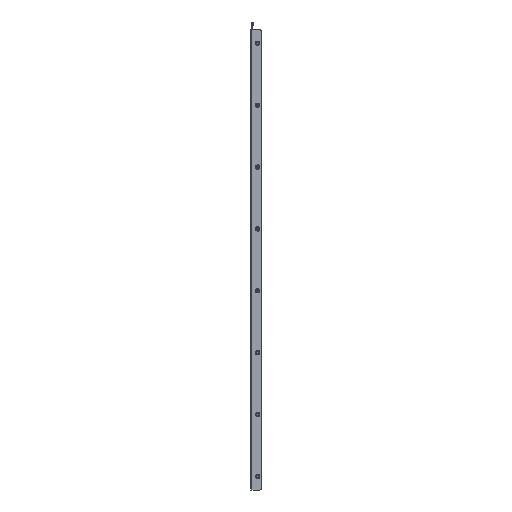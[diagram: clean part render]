
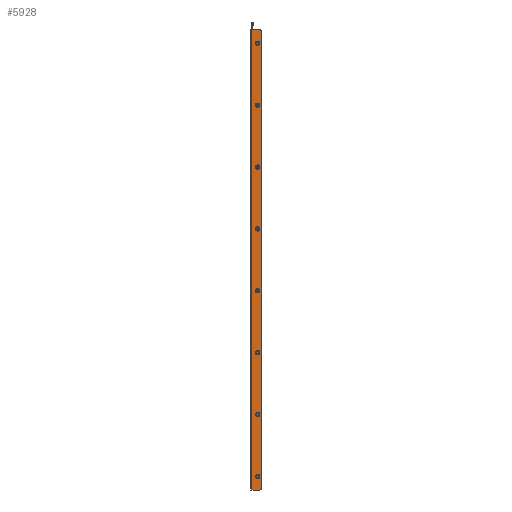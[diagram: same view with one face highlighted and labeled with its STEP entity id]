
A CAD part, left-side view. The second image highlights one B-rep face of the part: STEP entity #5928.
In plain terms, the highlighted planar face has unit normal (-1, 0, 0).
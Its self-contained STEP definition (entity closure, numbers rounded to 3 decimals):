
#1052=DIRECTION('',(0.,0.,1.));
#1053=VECTOR('',#1052,743.6);
#1054=CARTESIAN_POINT('',(-218.,86.1,-762.));
#1055=LINE('',#1054,#1053);
#1082=CARTESIAN_POINT('',(-218.,76.8,-40.02));
#1083=DIRECTION('',(1.,0.,0.));
#1084=DIRECTION('',(0.,0.,-1.));
#1085=AXIS2_PLACEMENT_3D('',#1082,#1083,#1084);
#1090=CARTESIAN_POINT('',(-218.,76.8,-40.02));
#1091=DIRECTION('',(1.,0.,0.));
#1092=DIRECTION('',(0.,0.,1.));
#1093=AXIS2_PLACEMENT_3D('',#1090,#1091,#1092);
#1098=CARTESIAN_POINT('',(-218.,76.8,-140.02));
#1099=DIRECTION('',(1.,0.,0.));
#1100=DIRECTION('',(0.,0.,-1.));
#1101=AXIS2_PLACEMENT_3D('',#1098,#1099,#1100);
#1106=CARTESIAN_POINT('',(-218.,76.8,-140.02));
#1107=DIRECTION('',(1.,0.,0.));
#1108=DIRECTION('',(0.,0.,1.));
#1109=AXIS2_PLACEMENT_3D('',#1106,#1107,#1108);
#1114=CARTESIAN_POINT('',(-218.,76.8,-240.02));
#1115=DIRECTION('',(1.,0.,0.));
#1116=DIRECTION('',(0.,0.,-1.));
#1117=AXIS2_PLACEMENT_3D('',#1114,#1115,#1116);
#1122=CARTESIAN_POINT('',(-218.,76.8,-240.02));
#1123=DIRECTION('',(1.,0.,0.));
#1124=DIRECTION('',(0.,0.,1.));
#1125=AXIS2_PLACEMENT_3D('',#1122,#1123,#1124);
#1130=CARTESIAN_POINT('',(-218.,76.8,-340.02));
#1131=DIRECTION('',(1.,0.,0.));
#1132=DIRECTION('',(0.,0.,-1.));
#1133=AXIS2_PLACEMENT_3D('',#1130,#1131,#1132);
#1138=CARTESIAN_POINT('',(-218.,76.8,-340.02));
#1139=DIRECTION('',(1.,0.,0.));
#1140=DIRECTION('',(0.,0.,1.));
#1141=AXIS2_PLACEMENT_3D('',#1138,#1139,#1140);
#1146=CARTESIAN_POINT('',(-218.,76.8,-440.02));
#1147=DIRECTION('',(1.,0.,0.));
#1148=DIRECTION('',(0.,0.,-1.));
#1149=AXIS2_PLACEMENT_3D('',#1146,#1147,#1148);
#1154=CARTESIAN_POINT('',(-218.,76.8,-440.02));
#1155=DIRECTION('',(1.,0.,0.));
#1156=DIRECTION('',(0.,0.,1.));
#1157=AXIS2_PLACEMENT_3D('',#1154,#1155,#1156);
#1162=CARTESIAN_POINT('',(-218.,76.8,-540.02));
#1163=DIRECTION('',(1.,0.,0.));
#1164=DIRECTION('',(0.,0.,-1.));
#1165=AXIS2_PLACEMENT_3D('',#1162,#1163,#1164);
#1170=CARTESIAN_POINT('',(-218.,76.8,-540.02));
#1171=DIRECTION('',(1.,0.,0.));
#1172=DIRECTION('',(0.,0.,1.));
#1173=AXIS2_PLACEMENT_3D('',#1170,#1171,#1172);
#1178=CARTESIAN_POINT('',(-218.,76.8,-640.02));
#1179=DIRECTION('',(1.,0.,0.));
#1180=DIRECTION('',(0.,0.,-1.));
#1181=AXIS2_PLACEMENT_3D('',#1178,#1179,#1180);
#1186=CARTESIAN_POINT('',(-218.,76.8,-640.02));
#1187=DIRECTION('',(1.,0.,0.));
#1188=DIRECTION('',(0.,0.,1.));
#1189=AXIS2_PLACEMENT_3D('',#1186,#1187,#1188);
#1194=CARTESIAN_POINT('',(-218.,76.8,-740.02));
#1195=DIRECTION('',(1.,0.,0.));
#1196=DIRECTION('',(0.,0.,-1.));
#1197=AXIS2_PLACEMENT_3D('',#1194,#1195,#1196);
#1202=CARTESIAN_POINT('',(-218.,76.8,-740.02));
#1203=DIRECTION('',(1.,0.,0.));
#1204=DIRECTION('',(0.,0.,1.));
#1205=AXIS2_PLACEMENT_3D('',#1202,#1203,#1204);
#1210=CARTESIAN_POINT('',(-218.,73.2,-20.4));
#1211=DIRECTION('',(1.,0.,0.));
#1212=DIRECTION('',(0.,0.,1.));
#1213=AXIS2_PLACEMENT_3D('',#1210,#1211,#1212);
#1218=DIRECTION('',(0.,0.,-1.));
#1219=VECTOR('',#1218,739.6);
#1220=CARTESIAN_POINT('',(-218.,71.2,-20.4));
#1221=LINE('',#1220,#1219);
#1225=CARTESIAN_POINT('',(-218.,73.2,-760.));
#1226=DIRECTION('',(1.,0.,0.));
#1227=DIRECTION('',(0.,-1.,0.));
#1228=AXIS2_PLACEMENT_3D('',#1225,#1226,#1227);
#1233=DIRECTION('',(0.,1.,0.));
#1234=VECTOR('',#1233,12.9);
#1235=CARTESIAN_POINT('',(-218.,73.2,-762.));
#1236=LINE('',#1235,#1234);
#1240=DIRECTION('',(0.,-1.,0.));
#1241=VECTOR('',#1240,12.9);
#1242=CARTESIAN_POINT('',(-218.,86.1,-18.4));
#1243=LINE('',#1242,#1241);
#4161=CARTESIAN_POINT('',(-218.,86.1,-762.));
#4162=CARTESIAN_POINT('',(-218.,86.1,-18.4));
#4163=VERTEX_POINT('',#4161);
#4164=VERTEX_POINT('',#4162);
#4177=CARTESIAN_POINT('',(-218.,76.8,-43.07));
#4178=CARTESIAN_POINT('',(-218.,76.8,-36.97));
#4179=VERTEX_POINT('',#4177);
#4180=VERTEX_POINT('',#4178);
#4185=CARTESIAN_POINT('',(-218.,76.8,-143.07));
#4186=CARTESIAN_POINT('',(-218.,76.8,-136.97));
#4187=VERTEX_POINT('',#4185);
#4188=VERTEX_POINT('',#4186);
#4193=CARTESIAN_POINT('',(-218.,76.8,-243.07));
#4194=CARTESIAN_POINT('',(-218.,76.8,-236.97));
#4195=VERTEX_POINT('',#4193);
#4196=VERTEX_POINT('',#4194);
#4201=CARTESIAN_POINT('',(-218.,76.8,-343.07));
#4202=CARTESIAN_POINT('',(-218.,76.8,-336.97));
#4203=VERTEX_POINT('',#4201);
#4204=VERTEX_POINT('',#4202);
#4209=CARTESIAN_POINT('',(-218.,76.8,-443.07));
#4210=CARTESIAN_POINT('',(-218.,76.8,-436.97));
#4211=VERTEX_POINT('',#4209);
#4212=VERTEX_POINT('',#4210);
#4217=CARTESIAN_POINT('',(-218.,76.8,-543.07));
#4218=CARTESIAN_POINT('',(-218.,76.8,-536.97));
#4219=VERTEX_POINT('',#4217);
#4220=VERTEX_POINT('',#4218);
#4225=CARTESIAN_POINT('',(-218.,76.8,-643.07));
#4226=CARTESIAN_POINT('',(-218.,76.8,-636.97));
#4227=VERTEX_POINT('',#4225);
#4228=VERTEX_POINT('',#4226);
#4233=CARTESIAN_POINT('',(-218.,76.8,-743.07));
#4234=CARTESIAN_POINT('',(-218.,76.8,-736.97));
#4235=VERTEX_POINT('',#4233);
#4236=VERTEX_POINT('',#4234);
#4253=CARTESIAN_POINT('',(-218.,73.2,-18.4));
#4254=CARTESIAN_POINT('',(-218.,71.2,-20.4));
#4255=VERTEX_POINT('',#4253);
#4256=VERTEX_POINT('',#4254);
#4261=CARTESIAN_POINT('',(-218.,71.2,-760.));
#4262=CARTESIAN_POINT('',(-218.,73.2,-762.));
#4263=VERTEX_POINT('',#4261);
#4264=VERTEX_POINT('',#4262);
#5862=CARTESIAN_POINT('',(-218.,87.7,-18.4));
#5863=DIRECTION('',(1.,0.,0.));
#5864=DIRECTION('',(0.,0.,1.));
#5865=AXIS2_PLACEMENT_3D('',#5862,#5863,#5864);
#5866=PLANE('',#5865);
#5868=ORIENTED_EDGE('',*,*,#5867,.T.);
#5870=ORIENTED_EDGE('',*,*,#5869,.T.);
#5872=ORIENTED_EDGE('',*,*,#5871,.T.);
#5874=ORIENTED_EDGE('',*,*,#5873,.T.);
#5875=ORIENTED_EDGE('',*,*,#5846,.T.);
#5877=ORIENTED_EDGE('',*,*,#5876,.T.);
#5878=EDGE_LOOP('',(#5868,#5870,#5872,#5874,#5875,#5877));
#5879=FACE_OUTER_BOUND('',#5878,.F.);
#5881=ORIENTED_EDGE('',*,*,#5880,.F.);
#5883=ORIENTED_EDGE('',*,*,#5882,.F.);
#5884=EDGE_LOOP('',(#5881,#5883));
#5885=FACE_BOUND('',#5884,.F.);
#5887=ORIENTED_EDGE('',*,*,#5886,.F.);
#5889=ORIENTED_EDGE('',*,*,#5888,.F.);
#5890=EDGE_LOOP('',(#5887,#5889));
#5891=FACE_BOUND('',#5890,.F.);
#5893=ORIENTED_EDGE('',*,*,#5892,.F.);
#5895=ORIENTED_EDGE('',*,*,#5894,.F.);
#5896=EDGE_LOOP('',(#5893,#5895));
#5897=FACE_BOUND('',#5896,.F.);
#5899=ORIENTED_EDGE('',*,*,#5898,.F.);
#5901=ORIENTED_EDGE('',*,*,#5900,.F.);
#5902=EDGE_LOOP('',(#5899,#5901));
#5903=FACE_BOUND('',#5902,.F.);
#5905=ORIENTED_EDGE('',*,*,#5904,.F.);
#5907=ORIENTED_EDGE('',*,*,#5906,.F.);
#5908=EDGE_LOOP('',(#5905,#5907));
#5909=FACE_BOUND('',#5908,.F.);
#5911=ORIENTED_EDGE('',*,*,#5910,.F.);
#5913=ORIENTED_EDGE('',*,*,#5912,.F.);
#5914=EDGE_LOOP('',(#5911,#5913));
#5915=FACE_BOUND('',#5914,.F.);
#5917=ORIENTED_EDGE('',*,*,#5916,.F.);
#5919=ORIENTED_EDGE('',*,*,#5918,.F.);
#5920=EDGE_LOOP('',(#5917,#5919));
#5921=FACE_BOUND('',#5920,.F.);
#5923=ORIENTED_EDGE('',*,*,#5922,.F.);
#5925=ORIENTED_EDGE('',*,*,#5924,.F.);
#5926=EDGE_LOOP('',(#5923,#5925));
#5927=FACE_BOUND('',#5926,.F.);
#1086=CIRCLE('',#1085,3.05);
#1094=CIRCLE('',#1093,3.05);
#1102=CIRCLE('',#1101,3.05);
#1110=CIRCLE('',#1109,3.05);
#1118=CIRCLE('',#1117,3.05);
#1126=CIRCLE('',#1125,3.05);
#1134=CIRCLE('',#1133,3.05);
#1142=CIRCLE('',#1141,3.05);
#1150=CIRCLE('',#1149,3.05);
#1158=CIRCLE('',#1157,3.05);
#1166=CIRCLE('',#1165,3.05);
#1174=CIRCLE('',#1173,3.05);
#1182=CIRCLE('',#1181,3.05);
#1190=CIRCLE('',#1189,3.05);
#1198=CIRCLE('',#1197,3.05);
#1206=CIRCLE('',#1205,3.05);
#1214=CIRCLE('',#1213,2.);
#1229=CIRCLE('',#1228,2.);
#5846=EDGE_CURVE('',#4163,#4164,#1055,.T.);
#5867=EDGE_CURVE('',#4255,#4256,#1214,.T.);
#5869=EDGE_CURVE('',#4256,#4263,#1221,.T.);
#5871=EDGE_CURVE('',#4263,#4264,#1229,.T.);
#5873=EDGE_CURVE('',#4264,#4163,#1236,.T.);
#5876=EDGE_CURVE('',#4164,#4255,#1243,.T.);
#5880=EDGE_CURVE('',#4187,#4188,#1102,.T.);
#5882=EDGE_CURVE('',#4188,#4187,#1110,.T.);
#5886=EDGE_CURVE('',#4195,#4196,#1118,.T.);
#5888=EDGE_CURVE('',#4196,#4195,#1126,.T.);
#5892=EDGE_CURVE('',#4203,#4204,#1134,.T.);
#5894=EDGE_CURVE('',#4204,#4203,#1142,.T.);
#5898=EDGE_CURVE('',#4211,#4212,#1150,.T.);
#5900=EDGE_CURVE('',#4212,#4211,#1158,.T.);
#5904=EDGE_CURVE('',#4219,#4220,#1166,.T.);
#5906=EDGE_CURVE('',#4220,#4219,#1174,.T.);
#5910=EDGE_CURVE('',#4227,#4228,#1182,.T.);
#5912=EDGE_CURVE('',#4228,#4227,#1190,.T.);
#5916=EDGE_CURVE('',#4235,#4236,#1198,.T.);
#5918=EDGE_CURVE('',#4236,#4235,#1206,.T.);
#5922=EDGE_CURVE('',#4179,#4180,#1086,.T.);
#5924=EDGE_CURVE('',#4180,#4179,#1094,.T.);
#5928=ADVANCED_FACE('',(#5879,#5885,#5891,#5897,#5903,#5909,#5915,#5921,#5927),
#5866,.F.);
